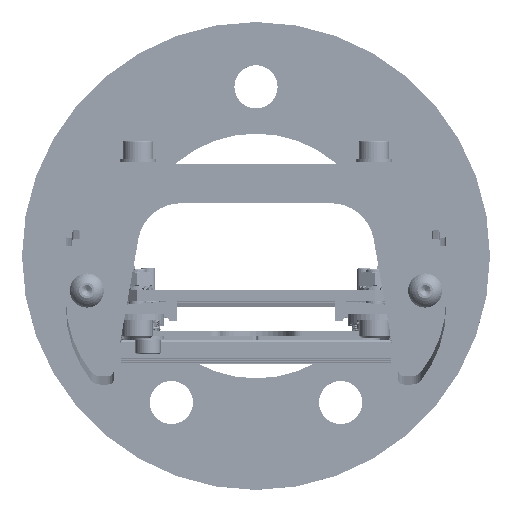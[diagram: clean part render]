
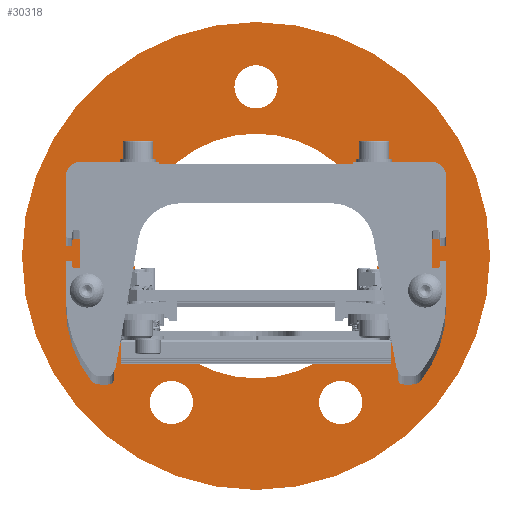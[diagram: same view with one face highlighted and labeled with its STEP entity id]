
A CAD part, top view. The second image highlights one B-rep face of the part: STEP entity #30318.
In plain terms, the highlighted planar face has unit normal (0, 0, 1).
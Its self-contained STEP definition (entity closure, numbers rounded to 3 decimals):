
#15710=FACE_BOUND('',#53836,.T.);
#15711=FACE_BOUND('',#53837,.T.);
#15712=FACE_BOUND('',#53838,.T.);
#15713=FACE_BOUND('',#53839,.T.);
#15714=FACE_BOUND('',#53840,.T.);
#15715=FACE_BOUND('',#53841,.T.);
#15716=FACE_BOUND('',#53842,.T.);
#21775=CIRCLE('',#179439,6.);
#21776=CIRCLE('',#179440,6.);
#21777=CIRCLE('',#179441,6.);
#21778=CIRCLE('',#179442,34.);
#21779=CIRCLE('',#179443,3.6);
#21780=CIRCLE('',#179444,3.6);
#21781=CIRCLE('',#179445,65.);
#30318=ADVANCED_FACE('',(#15710,#15711,#15712,#15713,#15714,#15715,#15716),
#36738,.T.);
#36738=PLANE('',#179446);
#53836=EDGE_LOOP('',(#87654));
#53837=EDGE_LOOP('',(#87655));
#53838=EDGE_LOOP('',(#87656));
#53839=EDGE_LOOP('',(#87657));
#53840=EDGE_LOOP('',(#87658));
#53841=EDGE_LOOP('',(#87659));
#53842=EDGE_LOOP('',(#87660));
#87654=ORIENTED_EDGE('',*,*,#135017,.F.);
#87655=ORIENTED_EDGE('',*,*,#135018,.F.);
#87656=ORIENTED_EDGE('',*,*,#135019,.F.);
#87657=ORIENTED_EDGE('',*,*,#135020,.T.);
#87658=ORIENTED_EDGE('',*,*,#135021,.T.);
#87659=ORIENTED_EDGE('',*,*,#135022,.T.);
#87660=ORIENTED_EDGE('',*,*,#135023,.F.);
#114442=VERTEX_POINT('',#336155);
#114443=VERTEX_POINT('',#336157);
#114444=VERTEX_POINT('',#336159);
#114445=VERTEX_POINT('',#336161);
#114446=VERTEX_POINT('',#336163);
#114447=VERTEX_POINT('',#336165);
#114448=VERTEX_POINT('',#336167);
#135017=EDGE_CURVE('',#114442,#114442,#21775,.T.);
#135018=EDGE_CURVE('',#114443,#114443,#21776,.T.);
#135019=EDGE_CURVE('',#114444,#114444,#21777,.T.);
#135020=EDGE_CURVE('',#114445,#114445,#21778,.T.);
#135021=EDGE_CURVE('',#114446,#114446,#21779,.T.);
#135022=EDGE_CURVE('',#114447,#114447,#21780,.T.);
#135023=EDGE_CURVE('',#114448,#114448,#21781,.T.);
#179439=AXIS2_PLACEMENT_3D('',#336154,#219111,#219112);
#179440=AXIS2_PLACEMENT_3D('',#336156,#219113,#219114);
#179441=AXIS2_PLACEMENT_3D('',#336158,#219115,#219116);
#179442=AXIS2_PLACEMENT_3D('',#336160,#219117,#219118);
#179443=AXIS2_PLACEMENT_3D('',#336162,#219119,#219120);
#179444=AXIS2_PLACEMENT_3D('',#336164,#219121,#219122);
#179445=AXIS2_PLACEMENT_3D('',#336166,#219123,#219124);
#179446=AXIS2_PLACEMENT_3D('',#336168,#219125,#219126);
#219111=DIRECTION('',(0.,0.,1.));
#219112=DIRECTION('',(-1.,0.,0.));
#219113=DIRECTION('',(0.,0.,1.));
#219114=DIRECTION('',(-1.,0.,0.));
#219115=DIRECTION('',(0.,0.,1.));
#219116=DIRECTION('',(-1.,0.,0.));
#219117=DIRECTION('',(0.,0.,-1.));
#219118=DIRECTION('',(-1.,0.,0.));
#219119=DIRECTION('',(0.,0.,-1.));
#219120=DIRECTION('',(1.,0.,0.));
#219121=DIRECTION('',(0.,0.,-1.));
#219122=DIRECTION('',(1.,0.,0.));
#219123=DIRECTION('',(0.,0.,-1.));
#219124=DIRECTION('',(-1.,0.,0.));
#219125=DIRECTION('',(0.,0.,1.));
#219126=DIRECTION('',(-1.,0.,0.));
#336154=CARTESIAN_POINT('',(293.846,-100.913,-285.));
#336155=CARTESIAN_POINT('',(287.846,-100.913,-285.));
#336156=CARTESIAN_POINT('',(317.346,-13.21,-285.));
#336157=CARTESIAN_POINT('',(311.346,-13.21,-285.));
#336158=CARTESIAN_POINT('',(340.846,-100.913,-285.));
#336159=CARTESIAN_POINT('',(334.846,-100.913,-285.));
#336160=CARTESIAN_POINT('',(317.346,-60.21,-285.));
#336161=CARTESIAN_POINT('',(283.346,-60.21,-285.));
#336162=CARTESIAN_POINT('',(364.346,-72.21,-285.));
#336163=CARTESIAN_POINT('',(367.946,-72.21,-285.));
#336164=CARTESIAN_POINT('',(270.346,-72.21,-285.));
#336165=CARTESIAN_POINT('',(273.946,-72.21,-285.));
#336166=CARTESIAN_POINT('',(317.346,-60.21,-285.));
#336167=CARTESIAN_POINT('',(252.346,-60.21,-285.));
#336168=CARTESIAN_POINT('',(252.346,-60.21,-285.));
